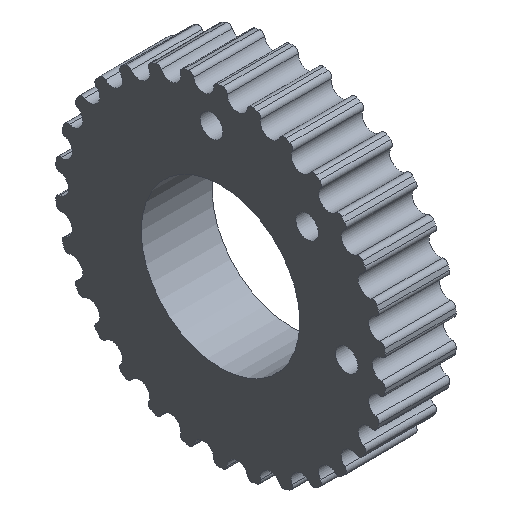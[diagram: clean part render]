
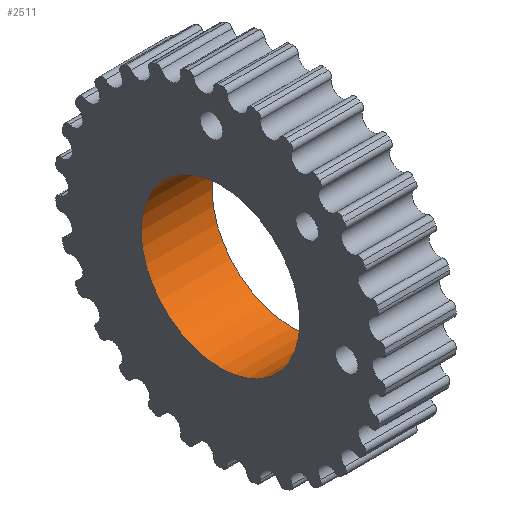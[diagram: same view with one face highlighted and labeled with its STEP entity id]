
A CAD part, isometric view. The second image highlights one B-rep face of the part: STEP entity #2511.
In plain terms, the highlighted cylindrical face has radius 11.176 mm (diameter 22.352 mm), a full revolution.
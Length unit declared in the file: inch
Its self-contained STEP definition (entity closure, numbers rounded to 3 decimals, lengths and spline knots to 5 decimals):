
#146=FACE_OUTER_BOUND('',#280,.T.);
#280=EDGE_LOOP('',(#2128,#2129,#2130,#2131));
#527=CIRCLE('',#2893,0.44);
#531=CIRCLE('',#2898,0.44);
#652=LINE('',#4517,#776);
#776=VECTOR('',#3767,0.44);
#1023=VERTEX_POINT('',#4505);
#1027=VERTEX_POINT('',#4514);
#1391=EDGE_CURVE('',#1023,#1023,#527,.T.);
#1395=EDGE_CURVE('',#1027,#1027,#531,.T.);
#1396=EDGE_CURVE('',#1027,#1023,#652,.T.);
#2128=ORIENTED_EDGE('',*,*,#1395,.F.);
#2129=ORIENTED_EDGE('',*,*,#1396,.T.);
#2130=ORIENTED_EDGE('',*,*,#1391,.T.);
#2131=ORIENTED_EDGE('',*,*,#1396,.F.);
#2264=CYLINDRICAL_SURFACE('',#2899,0.44);
#2511=ADVANCED_FACE('',(#146),#2264,.F.);
#2893=AXIS2_PLACEMENT_3D('',#4506,#3753,#3754);
#2898=AXIS2_PLACEMENT_3D('',#4515,#3763,#3764);
#2899=AXIS2_PLACEMENT_3D('',#4516,#3765,#3766);
#3753=DIRECTION('center_axis',(1.,0.,0.));
#3754=DIRECTION('ref_axis',(0.,0.,-1.));
#3763=DIRECTION('center_axis',(1.,0.,0.));
#3764=DIRECTION('ref_axis',(0.,0.,-1.));
#3765=DIRECTION('center_axis',(1.,0.,0.));
#3766=DIRECTION('ref_axis',(0.,0.,-1.));
#3767=DIRECTION('',(1.,0.,0.));
#4505=CARTESIAN_POINT('',(0.64961,0.,0.44));
#4506=CARTESIAN_POINT('Origin',(0.64961,0.,0.));
#4514=CARTESIAN_POINT('',(0.25591,0.,0.44));
#4515=CARTESIAN_POINT('Origin',(0.25591,0.,0.));
#4516=CARTESIAN_POINT('Origin',(0.64961,0.,0.));
#4517=CARTESIAN_POINT('',(0.64961,0.,0.44));
